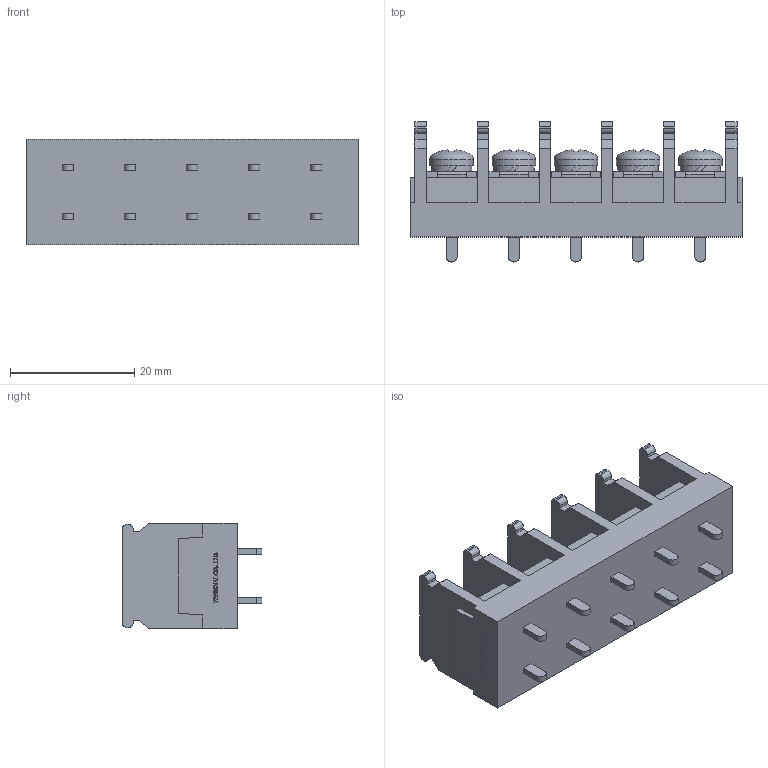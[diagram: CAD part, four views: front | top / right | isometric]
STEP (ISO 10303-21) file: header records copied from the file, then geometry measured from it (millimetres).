
FILE_DESCRIPTION(/* description */ ('Alibre Inc.'),/* implementation_level */ '2;1');
FILE_NAME(/* name */ 'export0',/* time_stamp */ '2015-10-17T15:30:52+09:00',/* author */ (''),/* organization */ (''),/* preprocessor_version */ 'ST-DEVELOPER v14',/* originating_system */ 'Alibre',/* authorisation */ '');
FILE_SCHEMA (('CONFIG_CONTROL_DESIGN'));
Length unit declared in the file: centimetre
Products named in the file (1): ID_1
Bounding box: 53.4 x 22.5 x 17 mm (x, y, z)
Volume: 10287.3 mm3; surface area: 6270.6 mm2
Topology: 1 solids, 17 shells, 768 faces, 2067 edges, 1373 vertices
Faces by surface type: plane 570, bspline 104, cylinder 59, cone 20, torus 10, sphere 5
Full cylindrical faces by diameter (mm): 4 x5, 6.5 x5, 7 x5
Entity records: 23254 total; most frequent: CARTESIAN_POINT 5235, ORIENTED_EDGE 4064, DIRECTION 2790, EDGE_CURVE 2032, VECTOR 1518, LINE 1518, VERTEX_POINT 1358, AXIS2_PLACEMENT_3D 911
